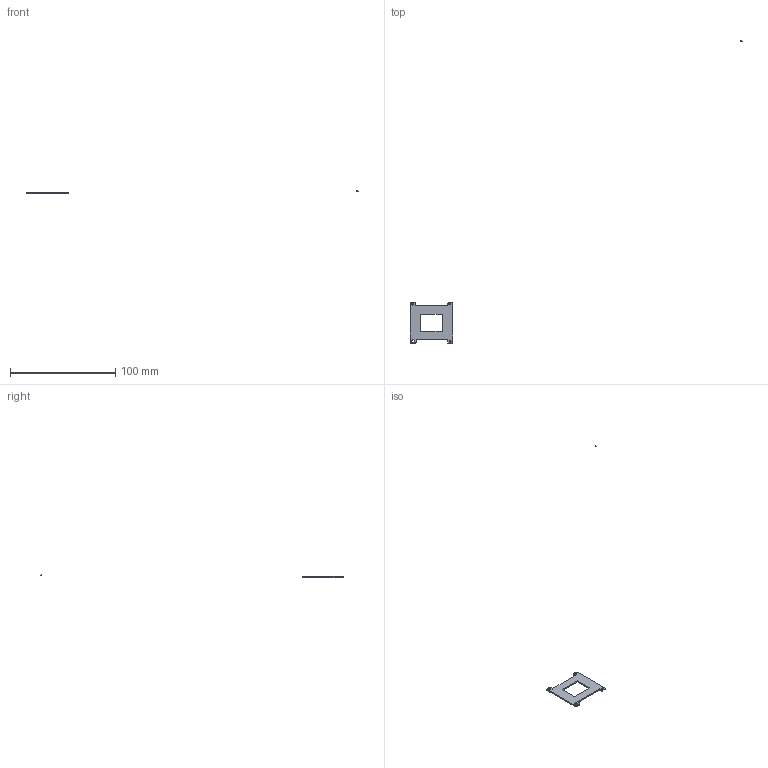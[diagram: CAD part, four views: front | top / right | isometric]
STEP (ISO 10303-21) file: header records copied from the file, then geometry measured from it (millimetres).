
FILE_DESCRIPTION((''),'2;1');
FILE_NAME('2501795F.stp','2004-08-20T06:57:19',(''),(''),'Mechanical Desktop.R8.0.24.0','Mechanical Desktop.R8.0.24.0',', , ');
FILE_SCHEMA(('CONFIG_CONTROL_DESIGN'));
Length unit declared in the file: millimetre
Products named in the file (5): 2501795F; CHSG2; CHK1; MOLD; GE3UCS
Assembly tree (4 placements, depth 2):
  2501795F
    CHSG2
    CHK1
    MOLD
    GE3UCS
Bounding box: 314.95 x 288.13 x 3.77 mm (x, y, z)
Volume: 1221.5 mm3; surface area: 2350.1 mm2
Topology: 9 solids, 9 shells, 74 faces, 208 edges, 152 vertices
Faces by surface type: plane 40, cylinder 18, cone 16
Entity records: 2415 total; most frequent: CARTESIAN_POINT 407, DIRECTION 402, ORIENTED_EDGE 352, EDGE_CURVE 176, VECTOR 140, LINE 140, AXIS2_PLACEMENT_3D 131, VERTEX_POINT 120
